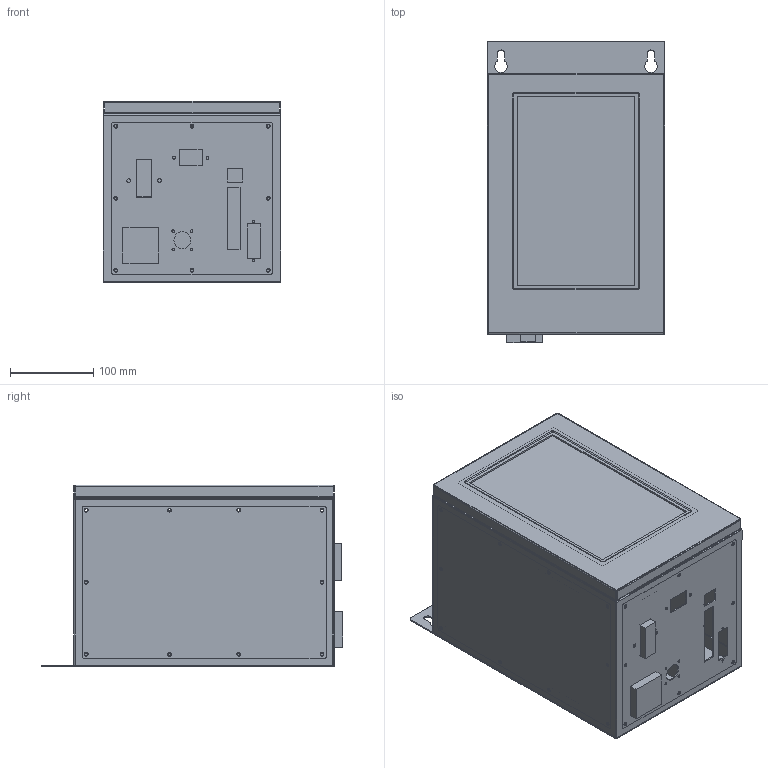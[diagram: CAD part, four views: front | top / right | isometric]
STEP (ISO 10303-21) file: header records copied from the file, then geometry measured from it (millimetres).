
FILE_DESCRIPTION (( 'STEP AP214' ), '1' );
FILE_NAME ('萇諷眊蚾饜軞芞.STEP', '2025-07-16T07:21:47', ( '' ), ( '' ), 'SwSTEP 2.0', 'SolidWorks 2021', '' );
FILE_SCHEMA (( 'AUTOMOTIVE_DESIGN' ));
Length unit declared in the file: millimetre
Products named in the file (1): 萇諷眊蚾饜軞芞
Bounding box: 213 x 362 x 218 mm (x, y, z)
Surface area: 896983.5 mm2 (no closed solid volume)
Topology: 0 solids, 21 shells, 323 faces, 1394 edges, 1084 vertices
Faces by surface type: cylinder 200, plane 110, bspline 10, torus 3
Entity records: 19119 total; most frequent: CARTESIAN_POINT 3377, DIRECTION 2759, ORIENTED_EDGE 2026, EDGE_CURVE 1394, VERTEX_POINT 1084, AXIS2_PLACEMENT_3D 1076, CIRCLE 762, LINE 607
